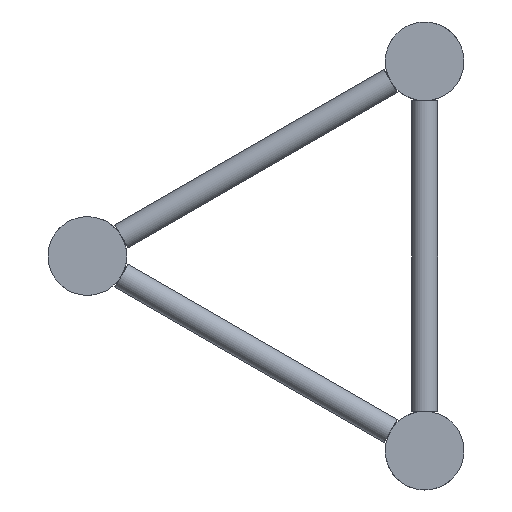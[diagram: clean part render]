
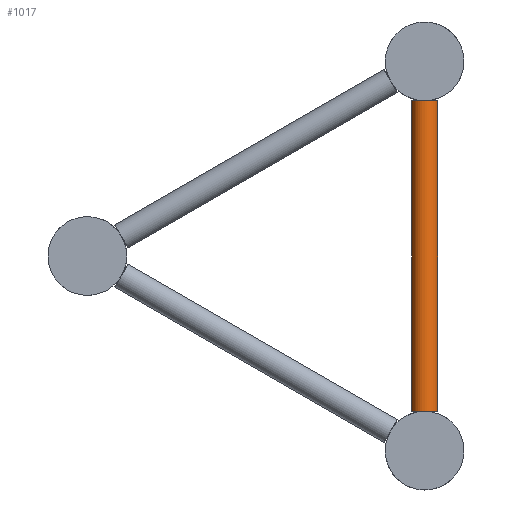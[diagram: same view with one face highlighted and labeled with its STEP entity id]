
A CAD part, left-side view. The second image highlights one B-rep face of the part: STEP entity #1017.
In plain terms, the highlighted cylindrical face has radius 8 mm (diameter 16 mm), a full revolution.
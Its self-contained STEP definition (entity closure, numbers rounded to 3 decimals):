
#71=CIRCLE('',#1103,8.);
#88=CIRCLE('',#1136,8.);
#89=CIRCLE('',#1138,8.);
#90=CIRCLE('',#1140,8.);
#149=FACE_BOUND('',#357,.T.);
#194=CYLINDRICAL_SURFACE('',#1139,8.);
#248=FACE_OUTER_BOUND('',#356,.T.);
#356=EDGE_LOOP('',(#717,#718));
#357=EDGE_LOOP('',(#719,#720));
#463=VERTEX_POINT('',#1554);
#464=VERTEX_POINT('',#1555);
#491=VERTEX_POINT('',#1618);
#492=VERTEX_POINT('',#1619);
#551=EDGE_CURVE('',#464,#463,#71,.T.);
#576=EDGE_CURVE('',#492,#491,#88,.T.);
#577=EDGE_CURVE('',#491,#492,#89,.T.);
#578=EDGE_CURVE('',#463,#464,#90,.T.);
#717=ORIENTED_EDGE('',*,*,#576,.T.);
#718=ORIENTED_EDGE('',*,*,#577,.T.);
#719=ORIENTED_EDGE('',*,*,#551,.T.);
#720=ORIENTED_EDGE('',*,*,#578,.T.);
#1017=ADVANCED_FACE('',(#248,#149),#194,.T.);
#1103=AXIS2_PLACEMENT_3D('',#1567,#1283,#1284);
#1136=AXIS2_PLACEMENT_3D('',#1632,#1357,#1358);
#1138=AXIS2_PLACEMENT_3D('',#1634,#1361,#1362);
#1139=AXIS2_PLACEMENT_3D('',#1635,#1363,#1364);
#1140=AXIS2_PLACEMENT_3D('',#1636,#1365,#1366);
#1283=DIRECTION('center_axis',(0.,0.,
-1.));
#1284=DIRECTION('ref_axis',(-1.,0.,0.));
#1357=DIRECTION('center_axis',(0.,0.,
1.));
#1358=DIRECTION('ref_axis',(-1.,0.,0.));
#1361=DIRECTION('center_axis',(0.,0.,
1.));
#1362=DIRECTION('ref_axis',(-1.,0.,0.));
#1363=DIRECTION('center_axis',(0.,0.,
1.));
#1364=DIRECTION('ref_axis',(-1.,0.,0.));
#1365=DIRECTION('center_axis',(0.,0.,
-1.));
#1366=DIRECTION('ref_axis',(-1.,0.,0.));
#1554=CARTESIAN_POINT('',(52.,0.,-24.15));
#1555=CARTESIAN_POINT('',(68.,0.,-24.15));
#1567=CARTESIAN_POINT('Origin',(60.,0.,-24.15));
#1618=CARTESIAN_POINT('',(52.,0.,-214.85));
#1619=CARTESIAN_POINT('',(68.,0.,-214.85));
#1632=CARTESIAN_POINT('Origin',(60.,0.,-214.85));
#1634=CARTESIAN_POINT('Origin',(60.,0.,-214.85));
#1635=CARTESIAN_POINT('Origin',(60.,0.,-119.5));
#1636=CARTESIAN_POINT('Origin',(60.,0.,-24.15));
